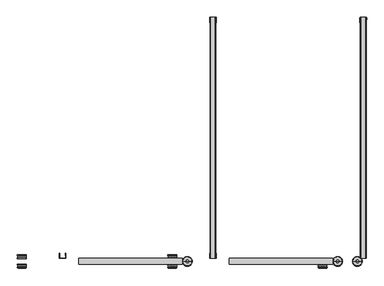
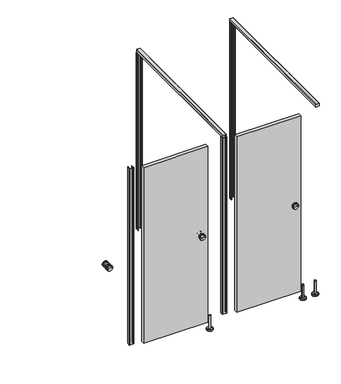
"""IFC4 building model written with IfcOpenShell, lengths in millimetres: proxy geometry, Partition_EuroStyle-Bradley_Corp-ADAStall_3StandardStall-LOFT : Partition_EuroStyle-Bradley_Corp-ADAStall_3StandardStall-LOFT."""

from ifc_helpers import new_model, si_unit, point, frame, frame_2d, origin, place, context, project, spatial, polyline, circle_curve, ellipse_curve, trimmed, segment, composite_curve, outline, extrude, source, transform, mapped, element, save
from ifc_brep_helpers import plane_surface, cylinder_surface, revolved_surface, advanced_brep


def specialty_equipment_3089a15b(model_context):
    return source(origin(), model_context, "Body", "SolidModel", [
        advanced_brep(
        [(4034.8201766, -1560.0098174, 1049.9875), (4063.3951766, -1560.0098174, 1049.9875), (4006.2451766, -1560.0098174, 1049.9875), (4063.3951766, -1564.7723174, 1049.9875), (4006.2451766, -1564.7723174, 1049.9875), (4006.2451766, -1579.0598174, 1049.9875), (4063.3951766, -1579.0598174, 1049.9875), (4063.3951766, -1583.8223174, 1049.9875), (4006.2451766, -1583.8223174, 1049.9875), (4007.8326766, -1577.4723174, 1049.9875), (4061.8076766, -1577.4723174, 1049.9875), (4007.8326766, -1566.3598174, 1049.9875), (4061.8076766, -1566.3598174, 1049.9875), (4034.8201766, -1585.4098174, 1049.9875)],
        [
            (0, 1),
            (1, 2, circle_curve(frame((4034.8201766, -1560.0098174, 1049.9875), z_axis=(0.0, 1.0, 0.0), x_axis=(1.0, 0.0, 0.0)), 28.575)),
            (2, 0),
            (2, 1, circle_curve(frame((4034.8201766, -1560.0098174, 1049.9875), z_axis=(0.0, 1.0, 0.0), x_axis=(1.0, 0.0, 0.0)), 28.575)),
            (1, 3),
            (3, 4, circle_curve(frame((4034.8201766, -1564.7723174, 1049.9875), z_axis=(0.0, 1.0, 0.0), x_axis=(1.0, 0.0, 0.0)), 28.575)),
            (4, 2),
            (4, 3, circle_curve(frame((4034.8201766, -1564.7723174, 1049.9875), z_axis=(0.0, 1.0, 0.0), x_axis=(1.0, 0.0, 0.0)), 28.575)),
            (5, 6, circle_curve(frame((4034.8201766, -1579.0598174, 1049.9875), z_axis=(0.0, -1.0, 0.0), x_axis=(1.0, 0.0, 0.0)), 28.575)),
            (6, 7),
            (7, 8, circle_curve(frame((4034.8201766, -1583.8223174, 1049.9875), z_axis=(0.0, 1.0, 0.0), x_axis=(1.0, 0.0, 0.0)), 28.575)),
            (8, 5),
            (6, 5, circle_curve(frame((4034.8201766, -1579.0598174, 1049.9875), z_axis=(0.0, -1.0, 0.0), x_axis=(1.0, 0.0, 0.0)), 28.575)),
            (8, 7, circle_curve(frame((4034.8201766, -1583.8223174, 1049.9875), z_axis=(0.0, 1.0, 0.0), x_axis=(1.0, 0.0, 0.0)), 28.575)),
            (9, 10, circle_curve(frame((4034.8201766, -1577.4723174, 1049.9875), z_axis=(0.0, -1.0, 0.0), x_axis=(1.0, 0.0, 0.0)), 26.9875)),
            (10, 6, circle_curve(frame((4063.3951766, -1577.4723174, 1049.9875), z_axis=(0.0, 0.0, 1.0), x_axis=(1.0, 0.0, 0.0)), 1.5875)),
            (5, 9, circle_curve(frame((4006.2451766, -1577.4723174, 1049.9875), z_axis=(0.0, 0.0, 1.0), x_axis=(-1.0, 0.0, 0.0)), 1.5875)),
            (10, 9, circle_curve(frame((4034.8201766, -1577.4723174, 1049.9875), z_axis=(0.0, -1.0, 0.0), x_axis=(1.0, 0.0, 0.0)), 26.9875)),
            (11, 12, circle_curve(frame((4034.8201766, -1566.3598174, 1049.9875), z_axis=(0.0, -1.0, 0.0), x_axis=(1.0, 0.0, 0.0)), 26.9875)),
            (12, 10),
            (9, 11),
            (12, 11, circle_curve(frame((4034.8201766, -1566.3598174, 1049.9875), z_axis=(0.0, -1.0, 0.0), x_axis=(1.0, 0.0, 0.0)), 26.9875)),
            (3, 12, circle_curve(frame((4063.3951766, -1566.3598174, 1049.9875), z_axis=(0.0, 0.0, 1.0), x_axis=(1.0, 0.0, 0.0)), 1.5875)),
            (11, 4, circle_curve(frame((4006.2451766, -1566.3598174, 1049.9875), z_axis=(0.0, 0.0, 1.0), x_axis=(-1.0, 0.0, 0.0)), 1.5875)),
            (7, 13, circle_curve(frame((4038.5143, -1393.9352882, 1049.9875), z_axis=(0.0, 0.0, -1.0), x_axis=(1.0, 0.0, 0.0)), 191.5101613)),
            (13, 8, circle_curve(frame((4031.1260533, -1393.9352882, 1049.9875), z_axis=(0.0, 0.0, -1.0), x_axis=(-1.0, 0.0, 0.0)), 191.5101613)),
        ],
        [
            plane_surface(frame((4034.8201766, -1560.0098174, 1049.9875), z_axis=(0.0, 1.0, 0.0), x_axis=(1.0, 0.0, 0.0))),
            cylinder_surface(frame((4034.8201766, -1560.0098174, 1049.9875), z_axis=(0.0, 1.0, 0.0), x_axis=(1.0, 0.0, 0.0)), 28.575),
            revolved_surface(trimmed(ellipse_curve(frame((4063.3951766, -1577.4723174, 1049.9875), z_axis=(0.0, 0.0, -1.0), x_axis=(1.0, 0.0, 0.0)), 1.5875, 1.5875), [point((4063.3951766, -1579.0598174, 1049.9875))], [point((4061.8076766, -1577.4723174, 1049.9875))], True, "CARTESIAN"), (4034.8201766, -1560.0098174, 1049.9875), (0.0, 1.0, 0.0)),
            cylinder_surface(frame((4034.8201766, -1560.0098174, 1049.9875), z_axis=(0.0, 1.0, 0.0), x_axis=(1.0, 0.0, 0.0)), 26.9875),
            revolved_surface(trimmed(ellipse_curve(frame((4063.3951766, -1566.3598174, 1049.9875), z_axis=(0.0, 0.0, -1.0), x_axis=(1.0, 0.0, 0.0)), 1.5875, 1.5875), [point((4061.8076766, -1566.3598174, 1049.9875))], [point((4063.3951766, -1564.7723174, 1049.9875))], True, "CARTESIAN"), (4034.8201766, -1560.0098174, 1049.9875), (0.0, 1.0, 0.0)),
            revolved_surface(trimmed(ellipse_curve(frame((4038.5143, -1393.9352882, 1049.9875), z_axis=(0.0, 0.0, 1.0), x_axis=(1.0, 0.0, 0.0)), 191.5101613, 191.5101613), [point((4034.8201766, -1585.4098174, 1049.9875))], [point((4063.3951766, -1583.8223174, 1049.9875))], True, "CARTESIAN"), (4034.8201766, -1560.0098174, 1049.9875), (0.0, 1.0, 0.0)),
        ],
        [
            (0, [[1, 2, 3]]),
            (0, [[-3, 4, -1]]),
            (1, [[-2, 5, 6, 7]]),
            (1, [[-4, -7, 8, -5]]),
            (1, [[9, 10, 11, 12]]),
            (1, [[13, -12, 14, -10]]),
            (2, [[15, 16, -9, 17]]),
            (2, [[18, -17, -13, -16]]),
            (3, [[19, 20, -15, 21]]),
            (3, [[22, -21, -18, -20]]),
            (4, [[-6, 23, -19, 24]]),
            (4, [[-8, -24, -22, -23]]),
            (5, [[-11, 25, 26]]),
            (5, [[-14, -26, -25]]),
        ],
    ),
        extrude(outline(polyline([(3443.2170903, -1523.9894923), (4098.3201766, -1523.9894923), (4098.3201766, -1560.0098174), (3443.2170903, -1560.0098174), (3443.2170903, -1523.9894923)])), frame((0.0, 0.0, 100.0), z_axis=(0.0, 0.0, 1.0), x_axis=(1.0, 0.0, 0.0)), (0.0, 0.0, 1.0), 1895.9875),
        extrude(outline(composite_curve([segment(polyline([(3320.7288796, -1491.4999998), (3322.2274652, -1491.4999998)]), True, "CONTINUOUS"), segment(trimmed(circle_curve(frame_2d((3322.2238978, -1492.4990918)), 0.9990984), [point((3322.2274652, -1491.4999998))], [point((3322.6975504, -1493.3787798))], False, "CARTESIAN"), True, "CONTINUOUS"), segment(polyline([(3322.6975504, -1493.3787798), (3322.5764404, -1500.6424298)]), True, "CONTINUOUS"), segment(trimmed(circle_curve(frame_2d((3322.0588945, -1501.4999449)), 1.0015917), [point((3322.5764404, -1500.6424298))], [point((3322.5475604, -1502.3742398))], False, "CARTESIAN"), True, "CONTINUOUS"), segment(polyline([(3322.5475604, -1502.3742398), (3322.2535049, -1520.0104531)]), True, "CONTINUOUS"), segment(trimmed(circle_curve(frame_2d((3324.2536968, -1519.9997796)), 2.0002204), [point((3322.2535049, -1520.0104531))], [point((3324.2536968, -1522.0))], True, "CARTESIAN"), True, "CONTINUOUS"), segment(polyline([(3324.2536968, -1522.0), (3358.1379958, -1522.0)]), True, "CONTINUOUS"), segment(trimmed(circle_curve(frame_2d((3358.1870154, -1520.0009061)), 1.9996948), [point((3358.1379958, -1522.0))], [point((3360.18671, -1520.0))], True, "CARTESIAN"), True, "CONTINUOUS"), segment(polyline([(3360.18671, -1520.0), (3359.8926587, -1502.3739987)]), True, "CONTINUOUS"), segment(trimmed(circle_curve(frame_2d((3360.3817558, -1501.4999449)), 1.0015917), [point((3359.8926587, -1502.3739987))], [point((3359.8642099, -1500.6424298))], False, "CARTESIAN"), True, "CONTINUOUS"), segment(polyline([(3359.8642099, -1500.6424298), (3359.7430999, -1493.3787798)]), True, "CONTINUOUS"), segment(trimmed(circle_curve(frame_2d((3360.2167525, -1492.4990918)), 0.9990984), [point((3359.7430999, -1493.3787798))], [point((3360.2131851, -1491.4999998))], False, "CARTESIAN"), True, "CONTINUOUS"), segment(polyline([(3360.2131851, -1491.4999998), (3361.7117707, -1491.4999998), (3362.2201098, -1521.97082)]), True, "CONTINUOUS"), segment(trimmed(circle_curve(frame_2d((3360.1909298, -1521.97082)), 2.02918), [point((3362.2201098, -1521.97082))], [point((3360.1909298, -1524.0))], False, "CARTESIAN"), True, "CONTINUOUS"), segment(polyline([(3360.1909298, -1524.0), (3322.2497205, -1524.0)]), True, "CONTINUOUS"), segment(trimmed(circle_curve(frame_2d((3322.2497205, -1521.97082)), 2.02918), [point((3322.2497205, -1524.0))], [point((3320.2205405, -1521.97082))], False, "CARTESIAN"), True, "CONTINUOUS"), segment(polyline([(3320.2205405, -1521.97082), (3320.7288796, -1491.4999998)]), True, "CONTINUOUS")], self_intersect=False)), frame((0.0, 0.0, 100.0), z_axis=(0.0, 0.0, 1.0), x_axis=(1.0, 0.0, 0.0)), (0.0, 0.0, 1.0), 1905.0),
        extrude(outline(composite_curve([segment(polyline([(4271.1288796, -32.5000002), (4270.6205405, -2.02918)]), True, "CONTINUOUS"), segment(trimmed(circle_curve(frame_2d((4272.6497205, -2.02918)), 2.02918), [point((4270.6205405, -2.02918))], [point((4272.6497205, 0.0))], False, "CARTESIAN"), True, "CONTINUOUS"), segment(polyline([(4272.6497205, 0.0), (4310.5909298, 0.0)]), True, "CONTINUOUS"), segment(trimmed(circle_curve(frame_2d((4310.5909298, -2.02918)), 2.02918), [point((4310.5909298, 0.0))], [point((4312.6201098, -2.02918))], False, "CARTESIAN"), True, "CONTINUOUS"), segment(polyline([(4312.6201098, -2.02918), (4312.1117707, -32.5000002), (4310.6131851, -32.5000002)]), True, "CONTINUOUS"), segment(trimmed(circle_curve(frame_2d((4310.6167525, -31.5009082)), 0.9990984), [point((4310.6131851, -32.5000002))], [point((4310.1430999, -30.6212202))], False, "CARTESIAN"), True, "CONTINUOUS"), segment(polyline([(4310.1430999, -30.6212202), (4310.2642099, -23.3575702)]), True, "CONTINUOUS"), segment(trimmed(circle_curve(frame_2d((4310.7817558, -22.5000551)), 1.0015917), [point((4310.2642099, -23.3575702))], [point((4310.2926587, -21.6260013))], False, "CARTESIAN"), True, "CONTINUOUS"), segment(polyline([(4310.2926587, -21.6260013), (4310.58671, -4.0)]), True, "CONTINUOUS"), segment(trimmed(circle_curve(frame_2d((4308.5870154, -3.9990939)), 1.9996948), [point((4310.58671, -4.0))], [point((4308.5379958, -2.0))], True, "CARTESIAN"), True, "CONTINUOUS"), segment(polyline([(4308.5379958, -2.0), (4274.6536968, -2.0)]), True, "CONTINUOUS"), segment(trimmed(circle_curve(frame_2d((4274.6536968, -4.0002204)), 2.0002204), [point((4274.6536968, -2.0))], [point((4272.6535049, -3.9895469))], True, "CARTESIAN"), True, "CONTINUOUS"), segment(polyline([(4272.6535049, -3.9895469), (4272.9475604, -21.6257602)]), True, "CONTINUOUS"), segment(trimmed(circle_curve(frame_2d((4272.4588945, -22.5000551)), 1.0015917), [point((4272.9475604, -21.6257602))], [point((4272.9764404, -23.3575702))], False, "CARTESIAN"), True, "CONTINUOUS"), segment(polyline([(4272.9764404, -23.3575702), (4273.0975504, -30.6212202)]), True, "CONTINUOUS"), segment(trimmed(circle_curve(frame_2d((4272.6238978, -31.5009082)), 0.9990984), [point((4273.0975504, -30.6212202))], [point((4272.6274652, -32.5000002))], False, "CARTESIAN"), True, "CONTINUOUS"), segment(polyline([(4272.6274652, -32.5000002), (4271.1288796, -32.5000002)]), True, "CONTINUOUS")], self_intersect=False)), frame((0.0, 0.0, 100.0), z_axis=(0.0, 0.0, 1.0), x_axis=(1.0, 0.0, 0.0)), (0.0, 0.0, 1.0), 1905.0),
        extrude(outline(composite_curve([segment(polyline([(2032.9666591, 4273.6203701), (2005.7492965, 4274.0741806)]), True, "CONTINUOUS"), segment(trimmed(circle_curve(frame_2d((2005.762, 4274.8360747)), 0.762), [point((2005.7492965, 4274.0741806))], [point((2005.0, 4274.8360747))], False, "CARTESIAN"), True, "CONTINUOUS"), segment(polyline([(2005.0, 4274.8360747), (2005.0, 4308.3733505)]), True, "CONTINUOUS"), segment(trimmed(circle_curve(frame_2d((2005.79375, 4308.3733505)), 0.79375), [point((2005.0, 4308.3733505))], [point((2005.7805172, 4309.1669902))], False, "CARTESIAN"), True, "CONTINUOUS"), segment(polyline([(2005.7805172, 4309.1669902), (2032.9666591, 4309.6202802)]), True, "CONTINUOUS"), segment(trimmed(circle_curve(frame_2d((2033.0000015, 4307.6205597)), 1.9999985), [point((2032.9666591, 4309.6202802))], [point((2035.0, 4307.6205597))], False, "CARTESIAN"), True, "CONTINUOUS"), segment(polyline([(2035.0, 4307.6205597), (2035.0, 4275.6200907)]), True, "CONTINUOUS"), segment(trimmed(circle_curve(frame_2d((2033.0000015, 4275.6200907)), 1.9999985), [point((2035.0, 4275.6200907))], [point((2032.9666591, 4273.6203701))], False, "CARTESIAN"), True, "CONTINUOUS")], self_intersect=False)), frame((0.0, -1524.0, 0.0), z_axis=(0.0, 1.0, 0.0), x_axis=(0.0, 0.0, 1.0)), (0.0, 0.0, 1.0), 1524.0),
        advanced_brep(
        [(4245.5703255, -1541.9996549, 150.0000008), (4263.5703248, -1541.9996549, 150.0000008), (4263.5703248, -1541.9996549, 12.0000001), (4245.5703255, -1541.9996549, 12.0000001), (4254.5703251, -1541.9996549, 150.0000008), (4223.5703262, -1541.9996549, 0.0), (4285.5703241, -1541.9996549, 0.0), (4254.5703251, -1541.9996549, 0.0), (4223.5703262, -1541.9996549, 10.0000001), (4285.5703241, -1541.9996549, 10.0000001), (4225.5727381, -1541.9996549, 12.0000001), (4283.5679122, -1541.9996549, 12.0000001)],
        [
            (0, 1, circle_curve(frame((4254.5703251, -1541.9996549, 150.0000008), z_axis=(0.0, 0.0, -1.0), x_axis=(1.0, 0.0, 0.0)), 8.9999997)),
            (1, 2),
            (2, 3, circle_curve(frame((4254.5703251, -1541.9996549, 12.0000001), z_axis=(0.0, 0.0, 1.0), x_axis=(1.0, 0.0, 0.0)), 8.9999997)),
            (3, 0),
            (1, 0, circle_curve(frame((4254.5703251, -1541.9996549, 150.0000008), z_axis=(0.0, 0.0, -1.0), x_axis=(1.0, 0.0, 0.0)), 8.9999997)),
            (3, 2, circle_curve(frame((4254.5703251, -1541.9996549, 12.0000001), z_axis=(0.0, 0.0, 1.0), x_axis=(1.0, 0.0, 0.0)), 8.9999997)),
            (4, 1),
            (0, 4),
            (5, 6, circle_curve(frame((4254.5703251, -1541.9996549, 0.0), z_axis=(0.0, 0.0, -1.0), x_axis=(1.0, 0.0, 0.0)), 30.9999989)),
            (6, 7),
            (7, 5),
            (6, 5, circle_curve(frame((4254.5703251, -1541.9996549, 0.0), z_axis=(0.0, 0.0, -1.0), x_axis=(1.0, 0.0, 0.0)), 30.9999989)),
            (8, 9, circle_curve(frame((4254.5703251, -1541.9996549, 10.0000001), z_axis=(0.0, 0.0, -1.0), x_axis=(1.0, 0.0, 0.0)), 30.9999989)),
            (9, 6),
            (5, 8),
            (9, 8, circle_curve(frame((4254.5703251, -1541.9996549, 10.0000001), z_axis=(0.0, 0.0, -1.0), x_axis=(1.0, 0.0, 0.0)), 30.9999989)),
            (10, 11, circle_curve(frame((4254.5703251, -1541.9996549, 12.0000001), z_axis=(0.0, 0.0, -1.0), x_axis=(1.0, 0.0, 0.0)), 28.997587)),
            (11, 9),
            (8, 10),
            (11, 10, circle_curve(frame((4254.5703251, -1541.9996549, 12.0000001), z_axis=(0.0, 0.0, -1.0), x_axis=(1.0, 0.0, 0.0)), 28.997587)),
            (2, 11),
            (10, 3),
        ],
        [
            cylinder_surface(frame((4254.5703251, -1541.9996549, 0.0), z_axis=(0.0, 0.0, 1.0), x_axis=(1.0, 0.0, 0.0)), 8.9999997),
            plane_surface(frame((4254.5703251, -1541.9996549, 150.0000008), z_axis=(0.0, 0.0, 1.0), x_axis=(1.0, 0.0, 0.0))),
            plane_surface(frame((4254.5703251, -1541.9996549, 0.0), z_axis=(0.0, 0.0, -1.0), x_axis=(1.0, 0.0, 0.0))),
            cylinder_surface(frame((4254.5703251, -1541.9996549, 0.0), z_axis=(0.0, 0.0, 1.0), x_axis=(1.0, 0.0, 0.0)), 30.9999989),
            revolved_surface(polyline([(4285.5703241, -1541.9996549, 10.0000001), (4283.5679122, -1541.9996549, 12.0000001)]), (4254.5703251, -1541.9996549, 0.0), (0.0, 0.0, 1.0)),
            plane_surface(frame((4254.5703251, -1541.9996549, 12.0000001), z_axis=(0.0, 0.0, 1.0), x_axis=(1.0, 0.0, 0.0))),
        ],
        [
            (0, [[1, 2, 3, 4]]),
            (0, [[5, -4, 6, -2]]),
            (1, [[7, -1, 8]]),
            (1, [[-8, -5, -7]]),
            (2, [[9, 10, 11]]),
            (2, [[12, -11, -10]]),
            (3, [[13, 14, -9, 15]]),
            (3, [[16, -15, -12, -14]]),
            (4, [[17, 18, -13, 19]]),
            (4, [[20, -19, -16, -18]]),
            (5, [[-3, 21, -17, 22]]),
            (5, [[-6, -22, -20, -21]]),
        ],
    ),
        advanced_brep(
        [(4121.2453255, -1541.9996549, 150.0000008), (4139.2453248, -1541.9996549, 150.0000008), (4139.2453248, -1541.9996549, 12.0000001), (4121.2453255, -1541.9996549, 12.0000001), (4130.2453251, -1541.9996549, 150.0000008), (4099.2453262, -1541.9996549, 0.0), (4161.2453241, -1541.9996549, 0.0), (4130.2453251, -1541.9996549, 0.0), (4099.2453262, -1541.9996549, 10.0000001), (4161.2453241, -1541.9996549, 10.0000001), (4101.2477381, -1541.9996549, 12.0000001), (4159.2429122, -1541.9996549, 12.0000001)],
        [
            (0, 1, circle_curve(frame((4130.2453251, -1541.9996549, 150.0000008), z_axis=(0.0, 0.0, -1.0), x_axis=(1.0, 0.0, 0.0)), 8.9999997)),
            (1, 2),
            (2, 3, circle_curve(frame((4130.2453251, -1541.9996549, 12.0000001), z_axis=(0.0, 0.0, 1.0), x_axis=(1.0, 0.0, 0.0)), 8.9999997)),
            (3, 0),
            (1, 0, circle_curve(frame((4130.2453251, -1541.9996549, 150.0000008), z_axis=(0.0, 0.0, -1.0), x_axis=(1.0, 0.0, 0.0)), 8.9999997)),
            (3, 2, circle_curve(frame((4130.2453251, -1541.9996549, 12.0000001), z_axis=(0.0, 0.0, 1.0), x_axis=(1.0, 0.0, 0.0)), 8.9999997)),
            (4, 1),
            (0, 4),
            (5, 6, circle_curve(frame((4130.2453251, -1541.9996549, 0.0), z_axis=(0.0, 0.0, -1.0), x_axis=(1.0, 0.0, 0.0)), 30.9999989)),
            (6, 7),
            (7, 5),
            (6, 5, circle_curve(frame((4130.2453251, -1541.9996549, 0.0), z_axis=(0.0, 0.0, -1.0), x_axis=(1.0, 0.0, 0.0)), 30.9999989)),
            (8, 9, circle_curve(frame((4130.2453251, -1541.9996549, 10.0000001), z_axis=(0.0, 0.0, -1.0), x_axis=(1.0, 0.0, 0.0)), 30.9999989)),
            (9, 6),
            (5, 8),
            (9, 8, circle_curve(frame((4130.2453251, -1541.9996549, 10.0000001), z_axis=(0.0, 0.0, -1.0), x_axis=(1.0, 0.0, 0.0)), 30.9999989)),
            (10, 11, circle_curve(frame((4130.2453251, -1541.9996549, 12.0000001), z_axis=(0.0, 0.0, -1.0), x_axis=(1.0, 0.0, 0.0)), 28.997587)),
            (11, 9),
            (8, 10),
            (11, 10, circle_curve(frame((4130.2453251, -1541.9996549, 12.0000001), z_axis=(0.0, 0.0, -1.0), x_axis=(1.0, 0.0, 0.0)), 28.997587)),
            (2, 11),
            (10, 3),
        ],
        [
            cylinder_surface(frame((4130.2453251, -1541.9996549, 0.0), z_axis=(0.0, 0.0, 1.0), x_axis=(1.0, 0.0, 0.0)), 8.9999997),
            plane_surface(frame((4130.2453251, -1541.9996549, 150.0000008), z_axis=(0.0, 0.0, 1.0), x_axis=(1.0, 0.0, 0.0))),
            plane_surface(frame((4130.2453251, -1541.9996549, 0.0), z_axis=(0.0, 0.0, -1.0), x_axis=(1.0, 0.0, 0.0))),
            cylinder_surface(frame((4130.2453251, -1541.9996549, 0.0), z_axis=(0.0, 0.0, 1.0), x_axis=(1.0, 0.0, 0.0)), 30.9999989),
            revolved_surface(polyline([(4161.2453241, -1541.9996549, 10.0000001), (4159.2429122, -1541.9996549, 12.0000001)]), (4130.2453251, -1541.9996549, 0.0), (0.0, 0.0, 1.0)),
            plane_surface(frame((4130.2453251, -1541.9996549, 12.0000001), z_axis=(0.0, 0.0, 1.0), x_axis=(1.0, 0.0, 0.0))),
        ],
        [
            (0, [[1, 2, 3, 4]]),
            (0, [[5, -4, 6, -2]]),
            (1, [[7, -1, 8]]),
            (1, [[-8, -5, -7]]),
            (2, [[9, 10, 11]]),
            (2, [[12, -11, -10]]),
            (3, [[13, 14, -9, 15]]),
            (3, [[16, -15, -12, -14]]),
            (4, [[17, 18, -13, 19]]),
            (4, [[20, -19, -16, -18]]),
            (5, [[-3, 21, -17, 22]]),
            (5, [[-6, -22, -20, -21]]),
        ],
    ),
        extrude(outline(composite_curve([segment(polyline([(2370.3288796, -1491.4999998), (2371.8274652, -1491.4999998)]), True, "CONTINUOUS"), segment(trimmed(circle_curve(frame_2d((2371.8238978, -1492.4990918)), 0.9990984), [point((2371.8274652, -1491.4999998))], [point((2372.2975504, -1493.3787798))], False, "CARTESIAN"), True, "CONTINUOUS"), segment(polyline([(2372.2975504, -1493.3787798), (2372.1764404, -1500.6424298)]), True, "CONTINUOUS"), segment(trimmed(circle_curve(frame_2d((2371.6588945, -1501.4999449)), 1.0015917), [point((2372.1764404, -1500.6424298))], [point((2372.1475604, -1502.3742398))], False, "CARTESIAN"), True, "CONTINUOUS"), segment(polyline([(2372.1475604, -1502.3742398), (2371.8535049, -1520.0104531)]), True, "CONTINUOUS"), segment(trimmed(circle_curve(frame_2d((2373.8536968, -1519.9997796)), 2.0002204), [point((2371.8535049, -1520.0104531))], [point((2373.8536968, -1522.0))], True, "CARTESIAN"), True, "CONTINUOUS"), segment(polyline([(2373.8536968, -1522.0), (2407.7379958, -1522.0)]), True, "CONTINUOUS"), segment(trimmed(circle_curve(frame_2d((2407.7870154, -1520.0009061)), 1.9996948), [point((2407.7379958, -1522.0))], [point((2409.78671, -1520.0))], True, "CARTESIAN"), True, "CONTINUOUS"), segment(polyline([(2409.78671, -1520.0), (2409.4926587, -1502.3739987)]), True, "CONTINUOUS"), segment(trimmed(circle_curve(frame_2d((2409.9817558, -1501.4999449)), 1.0015917), [point((2409.4926587, -1502.3739987))], [point((2409.4642099, -1500.6424298))], False, "CARTESIAN"), True, "CONTINUOUS"), segment(polyline([(2409.4642099, -1500.6424298), (2409.3430999, -1493.3787798)]), True, "CONTINUOUS"), segment(trimmed(circle_curve(frame_2d((2409.8167525, -1492.4990918)), 0.9990984), [point((2409.3430999, -1493.3787798))], [point((2409.8131851, -1491.4999998))], False, "CARTESIAN"), True, "CONTINUOUS"), segment(polyline([(2409.8131851, -1491.4999998), (2411.3117707, -1491.4999998), (2411.8201098, -1521.97082)]), True, "CONTINUOUS"), segment(trimmed(circle_curve(frame_2d((2409.7909298, -1521.97082)), 2.02918), [point((2411.8201098, -1521.97082))], [point((2409.7909298, -1524.0))], False, "CARTESIAN"), True, "CONTINUOUS"), segment(polyline([(2409.7909298, -1524.0), (2371.8497205, -1524.0)]), True, "CONTINUOUS"), segment(trimmed(circle_curve(frame_2d((2371.8497205, -1521.97082)), 2.02918), [point((2371.8497205, -1524.0))], [point((2369.8205405, -1521.97082))], False, "CARTESIAN"), True, "CONTINUOUS"), segment(polyline([(2369.8205405, -1521.97082), (2370.3288796, -1491.4999998)]), True, "CONTINUOUS")], self_intersect=False)), frame((0.0, 0.0, 100.0), z_axis=(0.0, 0.0, 1.0), x_axis=(1.0, 0.0, 0.0)), (0.0, 0.0, 1.0), 1905.0),
        advanced_brep(
        [(3055.8451766, -1524.0098174, 1050.0), (3112.9951766, -1524.0098174, 1050.0), (3084.4201766, -1524.0098174, 1050.0), (3055.8451766, -1519.2473174, 1050.0), (3112.9951766, -1519.2473174, 1050.0), (3055.8451766, -1500.1973174, 1050.0), (3112.9951766, -1500.1973174, 1050.0), (3112.9951766, -1504.9598174, 1050.0), (3055.8451766, -1504.9598174, 1050.0), (3111.4076766, -1506.5473174, 1050.0), (3057.4326766, -1506.5473174, 1050.0), (3111.4076766, -1517.6598174, 1050.0), (3057.4326766, -1517.6598174, 1050.0), (3084.4201766, -1498.6098174, 1050.0)],
        [
            (0, 1, circle_curve(frame((3084.4201766, -1524.0098174, 1050.0), z_axis=(0.0, -1.0, 0.0), x_axis=(1.0, 0.0, 0.0)), 28.575)),
            (1, 2),
            (2, 0),
            (1, 0, circle_curve(frame((3084.4201766, -1524.0098174, 1050.0), z_axis=(0.0, -1.0, 0.0), x_axis=(1.0, 0.0, 0.0)), 28.575)),
            (3, 4, circle_curve(frame((3084.4201766, -1519.2473174, 1050.0), z_axis=(0.0, -1.0, 0.0), x_axis=(1.0, 0.0, 0.0)), 28.575)),
            (4, 1),
            (0, 3),
            (4, 3, circle_curve(frame((3084.4201766, -1519.2473174, 1050.0), z_axis=(0.0, -1.0, 0.0), x_axis=(1.0, 0.0, 0.0)), 28.575)),
            (5, 6, circle_curve(frame((3084.4201766, -1500.1973174, 1050.0), z_axis=(0.0, -1.0, 0.0), x_axis=(1.0, 0.0, 0.0)), 28.575)),
            (6, 7),
            (7, 8, circle_curve(frame((3084.4201766, -1504.9598174, 1050.0), z_axis=(0.0, 1.0, 0.0), x_axis=(1.0, 0.0, 0.0)), 28.575)),
            (8, 5),
            (6, 5, circle_curve(frame((3084.4201766, -1500.1973174, 1050.0), z_axis=(0.0, -1.0, 0.0), x_axis=(1.0, 0.0, 0.0)), 28.575)),
            (8, 7, circle_curve(frame((3084.4201766, -1504.9598174, 1050.0), z_axis=(0.0, 1.0, 0.0), x_axis=(1.0, 0.0, 0.0)), 28.575)),
            (7, 9, circle_curve(frame((3112.9951766, -1506.5473174, 1050.0), z_axis=(0.0, 0.0, 1.0), x_axis=(1.0, 0.0, 0.0)), 1.5875)),
            (9, 10, circle_curve(frame((3084.4201766, -1506.5473174, 1050.0), z_axis=(0.0, 1.0, 0.0), x_axis=(1.0, 0.0, 0.0)), 26.9875)),
            (10, 8, circle_curve(frame((3055.8451766, -1506.5473174, 1050.0), z_axis=(0.0, 0.0, 1.0), x_axis=(-1.0, 0.0, 0.0)), 1.5875)),
            (10, 9, circle_curve(frame((3084.4201766, -1506.5473174, 1050.0), z_axis=(0.0, 1.0, 0.0), x_axis=(1.0, 0.0, 0.0)), 26.9875)),
            (9, 11),
            (11, 12, circle_curve(frame((3084.4201766, -1517.6598174, 1050.0), z_axis=(0.0, 1.0, 0.0), x_axis=(1.0, 0.0, 0.0)), 26.9875)),
            (12, 10),
            (12, 11, circle_curve(frame((3084.4201766, -1517.6598174, 1050.0), z_axis=(0.0, 1.0, 0.0), x_axis=(1.0, 0.0, 0.0)), 26.9875)),
            (11, 4, circle_curve(frame((3112.9951766, -1517.6598174, 1050.0), z_axis=(0.0, 0.0, 1.0), x_axis=(1.0, 0.0, 0.0)), 1.5875)),
            (3, 12, circle_curve(frame((3055.8451766, -1517.6598174, 1050.0), z_axis=(0.0, 0.0, 1.0), x_axis=(-1.0, 0.0, 0.0)), 1.5875)),
            (13, 6, circle_curve(frame((3088.1143, -1690.0843466, 1050.0), z_axis=(0.0, 0.0, -1.0), x_axis=(1.0, 0.0, 0.0)), 191.5101613)),
            (5, 13, circle_curve(frame((3080.7260533, -1690.0843466, 1050.0), z_axis=(0.0, 0.0, -1.0), x_axis=(-1.0, 0.0, 0.0)), 191.5101613)),
        ],
        [
            plane_surface(frame((3084.4201766, -1524.0098174, 1050.0), z_axis=(0.0, -1.0, 0.0), x_axis=(1.0, 0.0, 0.0))),
            cylinder_surface(frame((3084.4201766, -1524.0098174, 1050.0), z_axis=(0.0, 1.0, 0.0), x_axis=(1.0, 0.0, 0.0)), 28.575),
            revolved_surface(trimmed(ellipse_curve(frame((3112.9951766, -1506.5473174, 1050.0), z_axis=(0.0, 0.0, -1.0), x_axis=(1.0, 0.0, 0.0)), 1.5875, 1.5875), [point((3111.4076766, -1506.5473174, 1050.0))], [point((3112.9951766, -1504.9598174, 1050.0))], True, "CARTESIAN"), (3084.4201766, -1524.0098174, 1050.0), (0.0, 1.0, 0.0)),
            cylinder_surface(frame((3084.4201766, -1524.0098174, 1050.0), z_axis=(0.0, 1.0, 0.0), x_axis=(1.0, 0.0, 0.0)), 26.9875),
            revolved_surface(trimmed(ellipse_curve(frame((3112.9951766, -1517.6598174, 1050.0), z_axis=(0.0, 0.0, -1.0), x_axis=(1.0, 0.0, 0.0)), 1.5875, 1.5875), [point((3112.9951766, -1519.2473174, 1050.0))], [point((3111.4076766, -1517.6598174, 1050.0))], True, "CARTESIAN"), (3084.4201766, -1524.0098174, 1050.0), (0.0, 1.0, 0.0)),
            revolved_surface(trimmed(ellipse_curve(frame((3088.1143, -1690.0843466, 1050.0), z_axis=(0.0, 0.0, 1.0), x_axis=(1.0, 0.0, 0.0)), 191.5101613, 191.5101613), [point((3112.9951766, -1500.1973174, 1050.0))], [point((3084.4201766, -1498.6098174, 1050.0))], True, "CARTESIAN"), (3084.4201766, -1524.0098174, 1050.0), (0.0, 1.0, 0.0)),
        ],
        [
            (0, [[1, 2, 3]]),
            (0, [[4, -3, -2]]),
            (1, [[5, 6, -1, 7]]),
            (1, [[8, -7, -4, -6]]),
            (1, [[9, 10, 11, 12]]),
            (1, [[13, -12, 14, -10]]),
            (2, [[-11, 15, 16, 17]]),
            (2, [[-14, -17, 18, -15]]),
            (3, [[-16, 19, 20, 21]]),
            (3, [[-18, -21, 22, -19]]),
            (4, [[-20, 23, -5, 24]]),
            (4, [[-22, -24, -8, -23]]),
            (5, [[25, -9, 26]]),
            (5, [[-26, -13, -25]]),
        ],
    ),
        advanced_brep(
        [(3084.4201766, -1560.0098174, 1050.0), (3112.9951766, -1560.0098174, 1050.0), (3055.8451766, -1560.0098174, 1050.0), (3112.9951766, -1564.7723174, 1050.0), (3055.8451766, -1564.7723174, 1050.0), (3055.8451766, -1579.0598174, 1050.0), (3112.9951766, -1579.0598174, 1050.0), (3112.9951766, -1583.8223174, 1050.0), (3055.8451766, -1583.8223174, 1050.0), (3057.4326766, -1577.4723174, 1050.0), (3111.4076766, -1577.4723174, 1050.0), (3057.4326766, -1566.3598174, 1050.0), (3111.4076766, -1566.3598174, 1050.0), (3084.4201766, -1585.4098174, 1050.0)],
        [
            (0, 1),
            (1, 2, circle_curve(frame((3084.4201766, -1560.0098174, 1050.0), z_axis=(0.0, 1.0, 0.0), x_axis=(1.0, 0.0, 0.0)), 28.575)),
            (2, 0),
            (2, 1, circle_curve(frame((3084.4201766, -1560.0098174, 1050.0), z_axis=(0.0, 1.0, 0.0), x_axis=(1.0, 0.0, 0.0)), 28.575)),
            (1, 3),
            (3, 4, circle_curve(frame((3084.4201766, -1564.7723174, 1050.0), z_axis=(0.0, 1.0, 0.0), x_axis=(1.0, 0.0, 0.0)), 28.575)),
            (4, 2),
            (4, 3, circle_curve(frame((3084.4201766, -1564.7723174, 1050.0), z_axis=(0.0, 1.0, 0.0), x_axis=(1.0, 0.0, 0.0)), 28.575)),
            (5, 6, circle_curve(frame((3084.4201766, -1579.0598174, 1050.0), z_axis=(0.0, -1.0, 0.0), x_axis=(1.0, 0.0, 0.0)), 28.575)),
            (6, 7),
            (7, 8, circle_curve(frame((3084.4201766, -1583.8223174, 1050.0), z_axis=(0.0, 1.0, 0.0), x_axis=(1.0, 0.0, 0.0)), 28.575)),
            (8, 5),
            (6, 5, circle_curve(frame((3084.4201766, -1579.0598174, 1050.0), z_axis=(0.0, -1.0, 0.0), x_axis=(1.0, 0.0, 0.0)), 28.575)),
            (8, 7, circle_curve(frame((3084.4201766, -1583.8223174, 1050.0), z_axis=(0.0, 1.0, 0.0), x_axis=(1.0, 0.0, 0.0)), 28.575)),
            (9, 10, circle_curve(frame((3084.4201766, -1577.4723174, 1050.0), z_axis=(0.0, -1.0, 0.0), x_axis=(1.0, 0.0, 0.0)), 26.9875)),
            (10, 6, circle_curve(frame((3112.9951766, -1577.4723174, 1050.0), z_axis=(0.0, 0.0, 1.0), x_axis=(1.0, 0.0, 0.0)), 1.5875)),
            (5, 9, circle_curve(frame((3055.8451766, -1577.4723174, 1050.0), z_axis=(0.0, 0.0, 1.0), x_axis=(-1.0, 0.0, 0.0)), 1.5875)),
            (10, 9, circle_curve(frame((3084.4201766, -1577.4723174, 1050.0), z_axis=(0.0, -1.0, 0.0), x_axis=(1.0, 0.0, 0.0)), 26.9875)),
            (11, 12, circle_curve(frame((3084.4201766, -1566.3598174, 1050.0), z_axis=(0.0, -1.0, 0.0), x_axis=(1.0, 0.0, 0.0)), 26.9875)),
            (12, 10),
            (9, 11),
            (12, 11, circle_curve(frame((3084.4201766, -1566.3598174, 1050.0), z_axis=(0.0, -1.0, 0.0), x_axis=(1.0, 0.0, 0.0)), 26.9875)),
            (3, 12, circle_curve(frame((3112.9951766, -1566.3598174, 1050.0), z_axis=(0.0, 0.0, 1.0), x_axis=(1.0, 0.0, 0.0)), 1.5875)),
            (11, 4, circle_curve(frame((3055.8451766, -1566.3598174, 1050.0), z_axis=(0.0, 0.0, 1.0), x_axis=(-1.0, 0.0, 0.0)), 1.5875)),
            (7, 13, circle_curve(frame((3088.1143, -1393.9352882, 1050.0), z_axis=(0.0, 0.0, -1.0), x_axis=(1.0, 0.0, 0.0)), 191.5101613)),
            (13, 8, circle_curve(frame((3080.7260533, -1393.9352882, 1050.0), z_axis=(0.0, 0.0, -1.0), x_axis=(-1.0, 0.0, 0.0)), 191.5101613)),
        ],
        [
            plane_surface(frame((3084.4201766, -1560.0098174, 1050.0), z_axis=(0.0, 1.0, 0.0), x_axis=(1.0, 0.0, 0.0))),
            cylinder_surface(frame((3084.4201766, -1560.0098174, 1050.0), z_axis=(0.0, 1.0, 0.0), x_axis=(1.0, 0.0, 0.0)), 28.575),
            revolved_surface(trimmed(ellipse_curve(frame((3112.9951766, -1577.4723174, 1050.0), z_axis=(0.0, 0.0, -1.0), x_axis=(1.0, 0.0, 0.0)), 1.5875, 1.5875), [point((3112.9951766, -1579.0598174, 1050.0))], [point((3111.4076766, -1577.4723174, 1050.0))], True, "CARTESIAN"), (3084.4201766, -1560.0098174, 1050.0), (0.0, 1.0, 0.0)),
            cylinder_surface(frame((3084.4201766, -1560.0098174, 1050.0), z_axis=(0.0, 1.0, 0.0), x_axis=(1.0, 0.0, 0.0)), 26.9875),
            revolved_surface(trimmed(ellipse_curve(frame((3112.9951766, -1566.3598174, 1050.0), z_axis=(0.0, 0.0, -1.0), x_axis=(1.0, 0.0, 0.0)), 1.5875, 1.5875), [point((3111.4076766, -1566.3598174, 1050.0))], [point((3112.9951766, -1564.7723174, 1050.0))], True, "CARTESIAN"), (3084.4201766, -1560.0098174, 1050.0), (0.0, 1.0, 0.0)),
            revolved_surface(trimmed(ellipse_curve(frame((3088.1143, -1393.9352882, 1050.0), z_axis=(0.0, 0.0, 1.0), x_axis=(1.0, 0.0, 0.0)), 191.5101613, 191.5101613), [point((3084.4201766, -1585.4098174, 1050.0))], [point((3112.9951766, -1583.8223174, 1050.0))], True, "CARTESIAN"), (3084.4201766, -1560.0098174, 1050.0), (0.0, 1.0, 0.0)),
        ],
        [
            (0, [[1, 2, 3]]),
            (0, [[-3, 4, -1]]),
            (1, [[-2, 5, 6, 7]]),
            (1, [[-4, -7, 8, -5]]),
            (1, [[9, 10, 11, 12]]),
            (1, [[13, -12, 14, -10]]),
            (2, [[15, 16, -9, 17]]),
            (2, [[18, -17, -13, -16]]),
            (3, [[19, 20, -15, 21]]),
            (3, [[22, -21, -18, -20]]),
            (4, [[-6, 23, -19, 24]]),
            (4, [[-8, -24, -22, -23]]),
            (5, [[-11, 25, 26]]),
            (5, [[-14, -26, -25]]),
        ],
    ),
        extrude(outline(polyline([(2492.8170903, -1523.9894923), (3147.9201766, -1523.9894923), (3147.9201766, -1560.0098174), (2492.8170903, -1560.0098174), (2492.8170903, -1523.9894923)])), frame((0.0, 0.0, 100.0125), z_axis=(0.0, 0.0, 1.0), x_axis=(1.0, 0.0, 0.0)), (0.0, 0.0, 1.0), 1895.9875),
        extrude(outline(composite_curve([segment(polyline([(3320.7288796, -32.5000002), (3320.2205405, -2.02918)]), True, "CONTINUOUS"), segment(trimmed(circle_curve(frame_2d((3322.2497205, -2.02918)), 2.02918), [point((3320.2205405, -2.02918))], [point((3322.2497205, 0.0))], False, "CARTESIAN"), True, "CONTINUOUS"), segment(polyline([(3322.2497205, 0.0), (3360.1909298, 0.0)]), True, "CONTINUOUS"), segment(trimmed(circle_curve(frame_2d((3360.1909298, -2.02918)), 2.02918), [point((3360.1909298, 0.0))], [point((3362.2201098, -2.02918))], False, "CARTESIAN"), True, "CONTINUOUS"), segment(polyline([(3362.2201098, -2.02918), (3361.7117707, -32.5000002), (3360.2131851, -32.5000002)]), True, "CONTINUOUS"), segment(trimmed(circle_curve(frame_2d((3360.2167525, -31.5009082)), 0.9990984), [point((3360.2131851, -32.5000002))], [point((3359.7430999, -30.6212202))], False, "CARTESIAN"), True, "CONTINUOUS"), segment(polyline([(3359.7430999, -30.6212202), (3359.8642099, -23.3575702)]), True, "CONTINUOUS"), segment(trimmed(circle_curve(frame_2d((3360.3817558, -22.5000551)), 1.0015917), [point((3359.8642099, -23.3575702))], [point((3359.8926587, -21.6260013))], False, "CARTESIAN"), True, "CONTINUOUS"), segment(polyline([(3359.8926587, -21.6260013), (3360.18671, -4.0)]), True, "CONTINUOUS"), segment(trimmed(circle_curve(frame_2d((3358.1870154, -3.9990939)), 1.9996948), [point((3360.18671, -4.0))], [point((3358.1379958, -2.0))], True, "CARTESIAN"), True, "CONTINUOUS"), segment(polyline([(3358.1379958, -2.0), (3324.2536968, -2.0)]), True, "CONTINUOUS"), segment(trimmed(circle_curve(frame_2d((3324.2536968, -4.0002204)), 2.0002204), [point((3324.2536968, -2.0))], [point((3322.2535049, -3.9895469))], True, "CARTESIAN"), True, "CONTINUOUS"), segment(polyline([(3322.2535049, -3.9895469), (3322.5475604, -21.6257602)]), True, "CONTINUOUS"), segment(trimmed(circle_curve(frame_2d((3322.0588945, -22.5000551)), 1.0015917), [point((3322.5475604, -21.6257602))], [point((3322.5764404, -23.3575702))], False, "CARTESIAN"), True, "CONTINUOUS"), segment(polyline([(3322.5764404, -23.3575702), (3322.6975504, -30.6212202)]), True, "CONTINUOUS"), segment(trimmed(circle_curve(frame_2d((3322.2238978, -31.5009082)), 0.9990984), [point((3322.6975504, -30.6212202))], [point((3322.2274652, -32.5000002))], False, "CARTESIAN"), True, "CONTINUOUS"), segment(polyline([(3322.2274652, -32.5000002), (3320.7288796, -32.5000002)]), True, "CONTINUOUS")], self_intersect=False)), frame((0.0, 0.0, 100.0), z_axis=(0.0, 0.0, 1.0), x_axis=(1.0, 0.0, 0.0)), (0.0, 0.0, 1.0), 1905.0),
        extrude(outline(composite_curve([segment(polyline([(2032.9666591, 3323.2203701), (2005.7492965, 3323.6741806)]), True, "CONTINUOUS"), segment(trimmed(circle_curve(frame_2d((2005.762, 3324.4360747)), 0.762), [point((2005.7492965, 3323.6741806))], [point((2005.0, 3324.4360747))], False, "CARTESIAN"), True, "CONTINUOUS"), segment(polyline([(2005.0, 3324.4360747), (2005.0, 3357.9733505)]), True, "CONTINUOUS"), segment(trimmed(circle_curve(frame_2d((2005.79375, 3357.9733505)), 0.79375), [point((2005.0, 3357.9733505))], [point((2005.7805172, 3358.7669902))], False, "CARTESIAN"), True, "CONTINUOUS"), segment(polyline([(2005.7805172, 3358.7669902), (2032.9666591, 3359.2202802)]), True, "CONTINUOUS"), segment(trimmed(circle_curve(frame_2d((2033.0000015, 3357.2205597)), 1.9999985), [point((2032.9666591, 3359.2202802))], [point((2035.0, 3357.2205597))], False, "CARTESIAN"), True, "CONTINUOUS"), segment(polyline([(2035.0, 3357.2205597), (2035.0, 3325.2200907)]), True, "CONTINUOUS"), segment(trimmed(circle_curve(frame_2d((2033.0000015, 3325.2200907)), 1.9999985), [point((2035.0, 3325.2200907))], [point((2032.9666591, 3323.2203701))], False, "CARTESIAN"), True, "CONTINUOUS")], self_intersect=False)), frame((0.0, -1524.0, 0.0), z_axis=(0.0, 1.0, 0.0), x_axis=(0.0, 0.0, 1.0)), (0.0, 0.0, 1.0), 1524.0),
        advanced_brep(
        [(3170.8453255, -1541.9996549, 150.0000008), (3188.8453248, -1541.9996549, 150.0000008), (3188.8453248, -1541.9996549, 12.0000001), (3170.8453255, -1541.9996549, 12.0000001), (3179.8453251, -1541.9996549, 150.0000008), (3148.8453262, -1541.9996549, 0.0), (3210.8453241, -1541.9996549, 0.0), (3179.8453251, -1541.9996549, 0.0), (3148.8453262, -1541.9996549, 10.0000001), (3210.8453241, -1541.9996549, 10.0000001), (3150.8477381, -1541.9996549, 12.0000001), (3208.8429122, -1541.9996549, 12.0000001)],
        [
            (0, 1, circle_curve(frame((3179.8453251, -1541.9996549, 150.0000008), z_axis=(0.0, 0.0, -1.0), x_axis=(1.0, 0.0, 0.0)), 8.9999997)),
            (1, 2),
            (2, 3, circle_curve(frame((3179.8453251, -1541.9996549, 12.0000001), z_axis=(0.0, 0.0, 1.0), x_axis=(1.0, 0.0, 0.0)), 8.9999997)),
            (3, 0),
            (1, 0, circle_curve(frame((3179.8453251, -1541.9996549, 150.0000008), z_axis=(0.0, 0.0, -1.0), x_axis=(1.0, 0.0, 0.0)), 8.9999997)),
            (3, 2, circle_curve(frame((3179.8453251, -1541.9996549, 12.0000001), z_axis=(0.0, 0.0, 1.0), x_axis=(1.0, 0.0, 0.0)), 8.9999997)),
            (4, 1),
            (0, 4),
            (5, 6, circle_curve(frame((3179.8453251, -1541.9996549, 0.0), z_axis=(0.0, 0.0, -1.0), x_axis=(1.0, 0.0, 0.0)), 30.9999989)),
            (6, 7),
            (7, 5),
            (6, 5, circle_curve(frame((3179.8453251, -1541.9996549, 0.0), z_axis=(0.0, 0.0, -1.0), x_axis=(1.0, 0.0, 0.0)), 30.9999989)),
            (8, 9, circle_curve(frame((3179.8453251, -1541.9996549, 10.0000001), z_axis=(0.0, 0.0, -1.0), x_axis=(1.0, 0.0, 0.0)), 30.9999989)),
            (9, 6),
            (5, 8),
            (9, 8, circle_curve(frame((3179.8453251, -1541.9996549, 10.0000001), z_axis=(0.0, 0.0, -1.0), x_axis=(1.0, 0.0, 0.0)), 30.9999989)),
            (10, 11, circle_curve(frame((3179.8453251, -1541.9996549, 12.0000001), z_axis=(0.0, 0.0, -1.0), x_axis=(1.0, 0.0, 0.0)), 28.997587)),
            (11, 9),
            (8, 10),
            (11, 10, circle_curve(frame((3179.8453251, -1541.9996549, 12.0000001), z_axis=(0.0, 0.0, -1.0), x_axis=(1.0, 0.0, 0.0)), 28.997587)),
            (2, 11),
            (10, 3),
        ],
        [
            cylinder_surface(frame((3179.8453251, -1541.9996549, 0.0), z_axis=(0.0, 0.0, 1.0), x_axis=(1.0, 0.0, 0.0)), 8.9999997),
            plane_surface(frame((3179.8453251, -1541.9996549, 150.0000008), z_axis=(0.0, 0.0, 1.0), x_axis=(1.0, 0.0, 0.0))),
            plane_surface(frame((3179.8453251, -1541.9996549, 0.0), z_axis=(0.0, 0.0, -1.0), x_axis=(1.0, 0.0, 0.0))),
            cylinder_surface(frame((3179.8453251, -1541.9996549, 0.0), z_axis=(0.0, 0.0, 1.0), x_axis=(1.0, 0.0, 0.0)), 30.9999989),
            revolved_surface(polyline([(3210.8453241, -1541.9996549, 10.0000001), (3208.8429122, -1541.9996549, 12.0000001)]), (3179.8453251, -1541.9996549, 0.0), (0.0, 0.0, 1.0)),
            plane_surface(frame((3179.8453251, -1541.9996549, 12.0000001), z_axis=(0.0, 0.0, 1.0), x_axis=(1.0, 0.0, 0.0))),
        ],
        [
            (0, [[1, 2, 3, 4]]),
            (0, [[5, -4, 6, -2]]),
            (1, [[7, -1, 8]]),
            (1, [[-8, -5, -7]]),
            (2, [[9, 10, 11]]),
            (2, [[12, -11, -10]]),
            (3, [[13, 14, -9, 15]]),
            (3, [[16, -15, -12, -14]]),
            (4, [[17, 18, -13, 19]]),
            (4, [[20, -19, -16, -18]]),
            (5, [[-3, 21, -17, 22]]),
            (5, [[-6, -22, -20, -21]]),
        ],
    ),
        advanced_brep(
        [(2105.4451766, -1524.0098174, 1050.0), (2162.5951766, -1524.0098174, 1050.0), (2134.0201766, -1524.0098174, 1050.0), (2105.4451766, -1519.2473174, 1050.0), (2162.5951766, -1519.2473174, 1050.0), (2105.4451766, -1500.1973174, 1050.0), (2162.5951766, -1500.1973174, 1050.0), (2162.5951766, -1504.9598174, 1050.0), (2105.4451766, -1504.9598174, 1050.0), (2161.0076766, -1506.5473174, 1050.0), (2107.0326766, -1506.5473174, 1050.0), (2161.0076766, -1517.6598174, 1050.0), (2107.0326766, -1517.6598174, 1050.0), (2134.0201766, -1498.6098174, 1050.0)],
        [
            (0, 1, circle_curve(frame((2134.0201766, -1524.0098174, 1050.0), z_axis=(0.0, -1.0, 0.0), x_axis=(1.0, 0.0, 0.0)), 28.575)),
            (1, 2),
            (2, 0),
            (1, 0, circle_curve(frame((2134.0201766, -1524.0098174, 1050.0), z_axis=(0.0, -1.0, 0.0), x_axis=(1.0, 0.0, 0.0)), 28.575)),
            (3, 4, circle_curve(frame((2134.0201766, -1519.2473174, 1050.0), z_axis=(0.0, -1.0, 0.0), x_axis=(1.0, 0.0, 0.0)), 28.575)),
            (4, 1),
            (0, 3),
            (4, 3, circle_curve(frame((2134.0201766, -1519.2473174, 1050.0), z_axis=(0.0, -1.0, 0.0), x_axis=(1.0, 0.0, 0.0)), 28.575)),
            (5, 6, circle_curve(frame((2134.0201766, -1500.1973174, 1050.0), z_axis=(0.0, -1.0, 0.0), x_axis=(1.0, 0.0, 0.0)), 28.575)),
            (6, 7),
            (7, 8, circle_curve(frame((2134.0201766, -1504.9598174, 1050.0), z_axis=(0.0, 1.0, 0.0), x_axis=(1.0, 0.0, 0.0)), 28.575)),
            (8, 5),
            (6, 5, circle_curve(frame((2134.0201766, -1500.1973174, 1050.0), z_axis=(0.0, -1.0, 0.0), x_axis=(1.0, 0.0, 0.0)), 28.575)),
            (8, 7, circle_curve(frame((2134.0201766, -1504.9598174, 1050.0), z_axis=(0.0, 1.0, 0.0), x_axis=(1.0, 0.0, 0.0)), 28.575)),
            (7, 9, circle_curve(frame((2162.5951766, -1506.5473174, 1050.0), z_axis=(0.0, 0.0, 1.0), x_axis=(1.0, 0.0, 0.0)), 1.5875)),
            (9, 10, circle_curve(frame((2134.0201766, -1506.5473174, 1050.0), z_axis=(0.0, 1.0, 0.0), x_axis=(1.0, 0.0, 0.0)), 26.9875)),
            (10, 8, circle_curve(frame((2105.4451766, -1506.5473174, 1050.0), z_axis=(0.0, 0.0, 1.0), x_axis=(-1.0, 0.0, 0.0)), 1.5875)),
            (10, 9, circle_curve(frame((2134.0201766, -1506.5473174, 1050.0), z_axis=(0.0, 1.0, 0.0), x_axis=(1.0, 0.0, 0.0)), 26.9875)),
            (9, 11),
            (11, 12, circle_curve(frame((2134.0201766, -1517.6598174, 1050.0), z_axis=(0.0, 1.0, 0.0), x_axis=(1.0, 0.0, 0.0)), 26.9875)),
            (12, 10),
            (12, 11, circle_curve(frame((2134.0201766, -1517.6598174, 1050.0), z_axis=(0.0, 1.0, 0.0), x_axis=(1.0, 0.0, 0.0)), 26.9875)),
            (11, 4, circle_curve(frame((2162.5951766, -1517.6598174, 1050.0), z_axis=(0.0, 0.0, 1.0), x_axis=(1.0, 0.0, 0.0)), 1.5875)),
            (3, 12, circle_curve(frame((2105.4451766, -1517.6598174, 1050.0), z_axis=(0.0, 0.0, 1.0), x_axis=(-1.0, 0.0, 0.0)), 1.5875)),
            (13, 6, circle_curve(frame((2137.7143, -1690.0843466, 1050.0), z_axis=(0.0, 0.0, -1.0), x_axis=(1.0, 0.0, 0.0)), 191.5101613)),
            (5, 13, circle_curve(frame((2130.3260533, -1690.0843466, 1050.0), z_axis=(0.0, 0.0, -1.0), x_axis=(-1.0, 0.0, 0.0)), 191.5101613)),
        ],
        [
            plane_surface(frame((2134.0201766, -1524.0098174, 1050.0), z_axis=(0.0, -1.0, 0.0), x_axis=(1.0, 0.0, 0.0))),
            cylinder_surface(frame((2134.0201766, -1524.0098174, 1050.0), z_axis=(0.0, 1.0, 0.0), x_axis=(1.0, 0.0, 0.0)), 28.575),
            revolved_surface(trimmed(ellipse_curve(frame((2162.5951766, -1506.5473174, 1050.0), z_axis=(0.0, 0.0, -1.0), x_axis=(1.0, 0.0, 0.0)), 1.5875, 1.5875), [point((2161.0076766, -1506.5473174, 1050.0))], [point((2162.5951766, -1504.9598174, 1050.0))], True, "CARTESIAN"), (2134.0201766, -1524.0098174, 1050.0), (0.0, 1.0, 0.0)),
            cylinder_surface(frame((2134.0201766, -1524.0098174, 1050.0), z_axis=(0.0, 1.0, 0.0), x_axis=(1.0, 0.0, 0.0)), 26.9875),
            revolved_surface(trimmed(ellipse_curve(frame((2162.5951766, -1517.6598174, 1050.0), z_axis=(0.0, 0.0, -1.0), x_axis=(1.0, 0.0, 0.0)), 1.5875, 1.5875), [point((2162.5951766, -1519.2473174, 1050.0))], [point((2161.0076766, -1517.6598174, 1050.0))], True, "CARTESIAN"), (2134.0201766, -1524.0098174, 1050.0), (0.0, 1.0, 0.0)),
            revolved_surface(trimmed(ellipse_curve(frame((2137.7143, -1690.0843466, 1050.0), z_axis=(0.0, 0.0, 1.0), x_axis=(1.0, 0.0, 0.0)), 191.5101613, 191.5101613), [point((2162.5951766, -1500.1973174, 1050.0))], [point((2134.0201766, -1498.6098174, 1050.0))], True, "CARTESIAN"), (2134.0201766, -1524.0098174, 1050.0), (0.0, 1.0, 0.0)),
        ],
        [
            (0, [[1, 2, 3]]),
            (0, [[4, -3, -2]]),
            (1, [[5, 6, -1, 7]]),
            (1, [[8, -7, -4, -6]]),
            (1, [[9, 10, 11, 12]]),
            (1, [[13, -12, 14, -10]]),
            (2, [[-11, 15, 16, 17]]),
            (2, [[-14, -17, 18, -15]]),
            (3, [[-16, 19, 20, 21]]),
            (3, [[-18, -21, 22, -19]]),
            (4, [[-20, 23, -5, 24]]),
            (4, [[-22, -24, -8, -23]]),
            (5, [[25, -9, 26]]),
            (5, [[-26, -13, -25]]),
        ],
    ),
        advanced_brep(
        [(2134.0201766, -1560.0098174, 1050.0), (2162.5951766, -1560.0098174, 1050.0), (2105.4451766, -1560.0098174, 1050.0), (2162.5951766, -1564.7723174, 1050.0), (2105.4451766, -1564.7723174, 1050.0), (2105.4451766, -1579.0598174, 1050.0), (2162.5951766, -1579.0598174, 1050.0), (2162.5951766, -1583.8223174, 1050.0), (2105.4451766, -1583.8223174, 1050.0), (2107.0326766, -1577.4723174, 1050.0), (2161.0076766, -1577.4723174, 1050.0), (2107.0326766, -1566.3598174, 1050.0), (2161.0076766, -1566.3598174, 1050.0), (2134.0201766, -1585.4098174, 1050.0)],
        [
            (0, 1),
            (1, 2, circle_curve(frame((2134.0201766, -1560.0098174, 1050.0), z_axis=(0.0, 1.0, 0.0), x_axis=(1.0, 0.0, 0.0)), 28.575)),
            (2, 0),
            (2, 1, circle_curve(frame((2134.0201766, -1560.0098174, 1050.0), z_axis=(0.0, 1.0, 0.0), x_axis=(1.0, 0.0, 0.0)), 28.575)),
            (1, 3),
            (3, 4, circle_curve(frame((2134.0201766, -1564.7723174, 1050.0), z_axis=(0.0, 1.0, 0.0), x_axis=(1.0, 0.0, 0.0)), 28.575)),
            (4, 2),
            (4, 3, circle_curve(frame((2134.0201766, -1564.7723174, 1050.0), z_axis=(0.0, 1.0, 0.0), x_axis=(1.0, 0.0, 0.0)), 28.575)),
            (5, 6, circle_curve(frame((2134.0201766, -1579.0598174, 1050.0), z_axis=(0.0, -1.0, 0.0), x_axis=(1.0, 0.0, 0.0)), 28.575)),
            (6, 7),
            (7, 8, circle_curve(frame((2134.0201766, -1583.8223174, 1050.0), z_axis=(0.0, 1.0, 0.0), x_axis=(1.0, 0.0, 0.0)), 28.575)),
            (8, 5),
            (6, 5, circle_curve(frame((2134.0201766, -1579.0598174, 1050.0), z_axis=(0.0, -1.0, 0.0), x_axis=(1.0, 0.0, 0.0)), 28.575)),
            (8, 7, circle_curve(frame((2134.0201766, -1583.8223174, 1050.0), z_axis=(0.0, 1.0, 0.0), x_axis=(1.0, 0.0, 0.0)), 28.575)),
            (9, 10, circle_curve(frame((2134.0201766, -1577.4723174, 1050.0), z_axis=(0.0, -1.0, 0.0), x_axis=(1.0, 0.0, 0.0)), 26.9875)),
            (10, 6, circle_curve(frame((2162.5951766, -1577.4723174, 1050.0), z_axis=(0.0, 0.0, 1.0), x_axis=(1.0, 0.0, 0.0)), 1.5875)),
            (5, 9, circle_curve(frame((2105.4451766, -1577.4723174, 1050.0), z_axis=(0.0, 0.0, 1.0), x_axis=(-1.0, 0.0, 0.0)), 1.5875)),
            (10, 9, circle_curve(frame((2134.0201766, -1577.4723174, 1050.0), z_axis=(0.0, -1.0, 0.0), x_axis=(1.0, 0.0, 0.0)), 26.9875)),
            (11, 12, circle_curve(frame((2134.0201766, -1566.3598174, 1050.0), z_axis=(0.0, -1.0, 0.0), x_axis=(1.0, 0.0, 0.0)), 26.9875)),
            (12, 10),
            (9, 11),
            (12, 11, circle_curve(frame((2134.0201766, -1566.3598174, 1050.0), z_axis=(0.0, -1.0, 0.0), x_axis=(1.0, 0.0, 0.0)), 26.9875)),
            (3, 12, circle_curve(frame((2162.5951766, -1566.3598174, 1050.0), z_axis=(0.0, 0.0, 1.0), x_axis=(1.0, 0.0, 0.0)), 1.5875)),
            (11, 4, circle_curve(frame((2105.4451766, -1566.3598174, 1050.0), z_axis=(0.0, 0.0, 1.0), x_axis=(-1.0, 0.0, 0.0)), 1.5875)),
            (7, 13, circle_curve(frame((2137.7143, -1393.9352882, 1050.0), z_axis=(0.0, 0.0, -1.0), x_axis=(1.0, 0.0, 0.0)), 191.5101613)),
            (13, 8, circle_curve(frame((2130.3260533, -1393.9352882, 1050.0), z_axis=(0.0, 0.0, -1.0), x_axis=(-1.0, 0.0, 0.0)), 191.5101613)),
        ],
        [
            plane_surface(frame((2134.0201766, -1560.0098174, 1050.0), z_axis=(0.0, 1.0, 0.0), x_axis=(1.0, 0.0, 0.0))),
            cylinder_surface(frame((2134.0201766, -1560.0098174, 1050.0), z_axis=(0.0, 1.0, 0.0), x_axis=(1.0, 0.0, 0.0)), 28.575),
            revolved_surface(trimmed(ellipse_curve(frame((2162.5951766, -1577.4723174, 1050.0), z_axis=(0.0, 0.0, -1.0), x_axis=(1.0, 0.0, 0.0)), 1.5875, 1.5875), [point((2162.5951766, -1579.0598174, 1050.0))], [point((2161.0076766, -1577.4723174, 1050.0))], True, "CARTESIAN"), (2134.0201766, -1560.0098174, 1050.0), (0.0, 1.0, 0.0)),
            cylinder_surface(frame((2134.0201766, -1560.0098174, 1050.0), z_axis=(0.0, 1.0, 0.0), x_axis=(1.0, 0.0, 0.0)), 26.9875),
            revolved_surface(trimmed(ellipse_curve(frame((2162.5951766, -1566.3598174, 1050.0), z_axis=(0.0, 0.0, -1.0), x_axis=(1.0, 0.0, 0.0)), 1.5875, 1.5875), [point((2161.0076766, -1566.3598174, 1050.0))], [point((2162.5951766, -1564.7723174, 1050.0))], True, "CARTESIAN"), (2134.0201766, -1560.0098174, 1050.0), (0.0, 1.0, 0.0)),
            revolved_surface(trimmed(ellipse_curve(frame((2137.7143, -1393.9352882, 1050.0), z_axis=(0.0, 0.0, 1.0), x_axis=(1.0, 0.0, 0.0)), 191.5101613, 191.5101613), [point((2134.0201766, -1585.4098174, 1050.0))], [point((2162.5951766, -1583.8223174, 1050.0))], True, "CARTESIAN"), (2134.0201766, -1560.0098174, 1050.0), (0.0, 1.0, 0.0)),
        ],
        [
            (0, [[1, 2, 3]]),
            (0, [[-3, 4, -1]]),
            (1, [[-2, 5, 6, 7]]),
            (1, [[-4, -7, 8, -5]]),
            (1, [[9, 10, 11, 12]]),
            (1, [[13, -12, 14, -10]]),
            (2, [[15, 16, -9, 17]]),
            (2, [[18, -17, -13, -16]]),
            (3, [[19, 20, -15, 21]]),
            (3, [[22, -21, -18, -20]]),
            (4, [[-6, 23, -19, 24]]),
            (4, [[-8, -24, -22, -23]]),
            (5, [[-11, 25, 26]]),
            (5, [[-14, -26, -25]]),
        ],
    ),
    ])


if __name__ == "__main__":
    model = new_model("IFC4")
    model_context = context("Model", 3, world=origin())
    ifc_project = project(units=[si_unit("LENGTHUNIT", "METRE", prefix="MILLI")], contexts=[model_context])
    site = spatial("IfcSite", under=ifc_project)
    building = spatial("IfcBuilding", under=site)
    placement = place(None, origin())
    specialty_equipment_shape = specialty_equipment_3089a15b(model_context)
    element("IfcBuildingElementProxy", 1, Name="Partition_EuroStyle-Bradley_Corp-ADAStall_3StandardStall-LOFT : Partition_EuroStyle-Bradley_Corp-ADAStall_3StandardStall-LOFT", ObjectType="Partition_EuroStyle-Bradley_Corp-ADAStall_3StandardStall-LOFT : Partition_EuroStyle-Bradley_Corp-ADAStall_3StandardStall-LOFT", at=placement, inside=building, context=model_context, shape_type="MappedRepresentation", body=[
        mapped(specialty_equipment_shape, transform((0.0, 0.0, 0.0), x_axis=(1.0, 0.0, 0.0), y_axis=(0.0, 1.0, 0.0), z_axis=(0.0, 0.0, 1.0))),
    ])
    save(model, "model.ifc")
